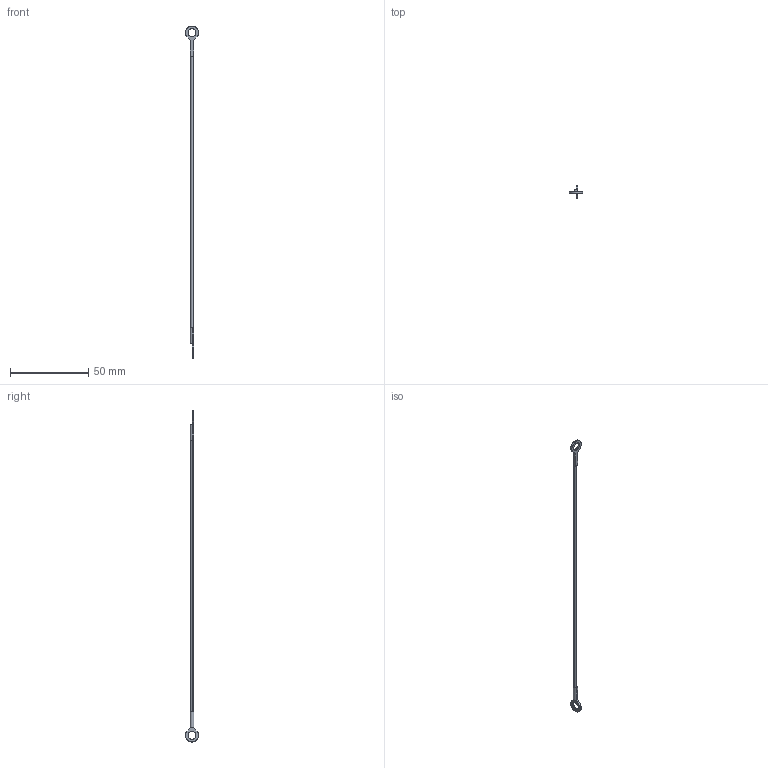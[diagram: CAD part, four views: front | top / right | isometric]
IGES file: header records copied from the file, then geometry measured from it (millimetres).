
Start section: SolidWorks IGES file using analytic representation for surfaces
Global section: file name: C:\Users\ianosborn\Desktop\LA1070_v2\LA1070_v2_20260323_IGES\LA1070.I04-203B1.igs; native system: SolidWorks 2019; preprocessor: SolidWorks 2019; author: IanOsborn; date: 260323.144641; units: millimetre
Bounding box: 8.38 x 8.38 x 211.58 mm (x, y, z)
Surface area: 1284.8 mm2 (no closed solid volume)
Topology: 0 solids, 0 shells, 27 faces, 460 edges, 460 vertices
Faces by surface type: bspline 16, revolution 11
